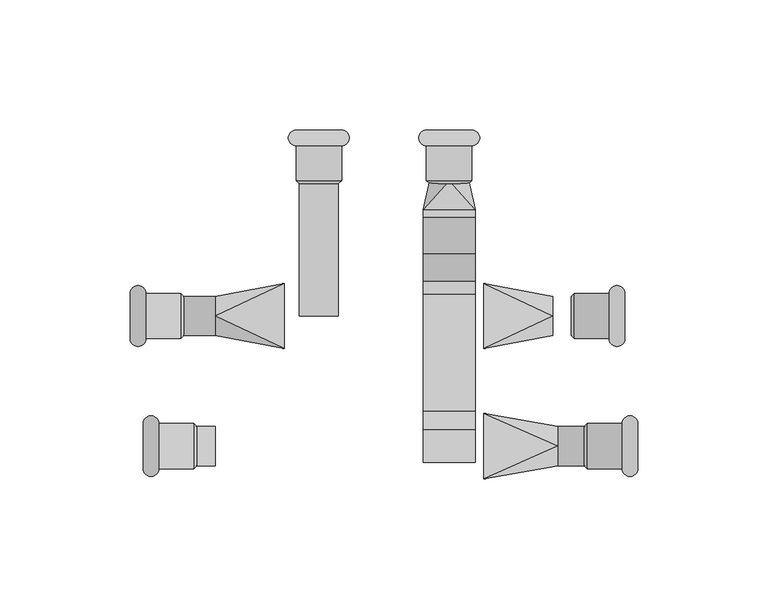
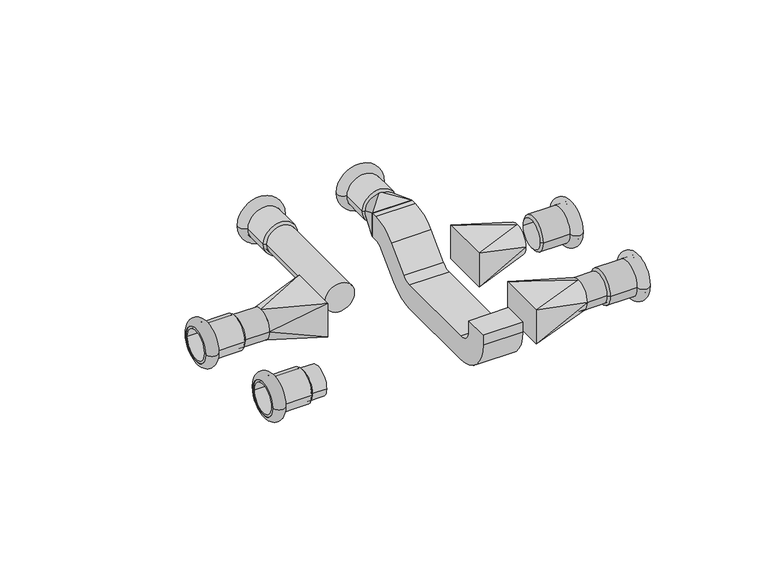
"""IFC4 building model written with IfcOpenShell, lengths in millimetres: pipe fitting geometry, NLRS_50_PIF_UN_Geberit Mapress kruising-T-stuk met isolatiebox_PRO_103301 : DN10-20 / d12-22 - OD."""

from ifc_helpers import new_model, si_unit, point, frame, frame_2d, origin, origin_2d, place, context, project, spatial, polyline, circle_curve, ellipse_curve, trimmed, segment, composite_curve, outline, extrude, source, transform, mapped, element, save
from ifc_brep_helpers import plane_surface, cylinder_surface, revolved_surface, spline_surface, advanced_brep


def pipe_fitting_3b2257b0(model_context):
    return source(origin(), model_context, "Body", "SolidModel", [
        advanced_brep(
        [(-41.3, 71.5, 0.0), (-58.7, 71.5, 0.0), (-58.7, 65.4987073, 0.0), (-41.3, 65.4987073, 0.0)],
        [
            (0, 1, circle_curve(frame((-50.0, 71.5, 0.0), z_axis=(0.0, 1.0, 0.0), x_axis=(-1.0000000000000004, 0.0, 0.0)), 8.7)),
            (1, 2),
            (2, 3, circle_curve(frame((-50.0, 65.4987073, 0.0), z_axis=(0.0, -1.0, 0.0), x_axis=(-1.0000000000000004, 0.0, 0.0)), 8.7)),
            (3, 0),
            (1, 0, circle_curve(frame((-50.0, 71.5, 0.0), z_axis=(0.0, 1.0, 0.0), x_axis=(-1.0000000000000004, 0.0, 0.0)), 8.7)),
            (3, 2, circle_curve(frame((-50.0, 65.4987073, 0.0), z_axis=(0.0, -1.0, 0.0), x_axis=(-1.0000000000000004, 0.0, 0.0)), 8.7)),
            (2, 1, circle_curve(frame((-58.7, 68.4993536, 0.0), z_axis=(0.0, 0.0, -1.0000000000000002), x_axis=(0.0, 1.0000000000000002, 0.0)), 3.0006464)),
            (0, 3, circle_curve(frame((-41.3, 68.4993536, 0.0), z_axis=(0.0, 0.0, -1.0000000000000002), x_axis=(0.0, 1.0000000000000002, 0.0)), 3.0006464)),
        ],
        [
            revolved_surface(polyline([(-58.7, 65.4987073, 0.0), (-58.7, 71.5, 0.0)]), (-50.0, 52.0, 0.0), (0.0, -1.0000000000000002, 0.0)),
            revolved_surface(trimmed(ellipse_curve(frame((-58.7, 68.4993536, 0.0), z_axis=(0.0, 0.0, 1.0000000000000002), x_axis=(0.0, 1.0000000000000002, 0.0)), 3.0006464, 3.0006464), [point((-58.7, 71.5, 0.0))], [point((-58.7, 65.4987073, 0.0))], True, "CARTESIAN"), (-50.0, 52.0, 0.0), (0.0, -1.0000000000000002, 0.0)),
        ],
        [
            (0, [[1, 2, 3, 4]]),
            (0, [[5, -4, 6, -2]]),
            (1, [[-3, 7, -1, 8]]),
            (1, [[-6, -8, -5, -7]]),
        ],
    ),
        advanced_brep(
        [(-42.5, 71.5, 0.0), (-57.5, 71.5, 0.0), (-57.5, 51.0, 0.0), (-42.5, 51.0, 0.0), (-41.3, 71.5, 0.0), (-58.7, 71.5, 0.0), (-41.3, 52.0, 0.0), (-58.7, 52.0, 0.0)],
        [
            (0, 1, circle_curve(frame((-50.0, 71.5, 0.0), z_axis=(0.0, 1.0, 0.0), x_axis=(-1.0000000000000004, 0.0, 0.0)), 7.5)),
            (1, 2),
            (2, 3, circle_curve(frame((-50.0, 51.0, 0.0), z_axis=(0.0, -1.0, 0.0), x_axis=(-1.0000000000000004, 0.0, 0.0)), 7.5)),
            (3, 0),
            (1, 0, circle_curve(frame((-50.0, 71.5, 0.0), z_axis=(0.0, 1.0, 0.0), x_axis=(-1.0000000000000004, 0.0, 0.0)), 7.5)),
            (3, 2, circle_curve(frame((-50.0, 51.0, 0.0), z_axis=(0.0, -1.0, 0.0), x_axis=(-1.0000000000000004, 0.0, 0.0)), 7.5)),
            (4, 5, circle_curve(frame((-50.0, 71.5, 0.0), z_axis=(0.0, 1.0, 0.0), x_axis=(-1.0000000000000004, 0.0, 0.0)), 8.7)),
            (5, 1),
            (0, 4),
            (5, 4, circle_curve(frame((-50.0, 71.5, 0.0), z_axis=(0.0, 1.0, 0.0), x_axis=(-1.0000000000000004, 0.0, 0.0)), 8.7)),
            (6, 7, circle_curve(frame((-50.0, 52.0, 0.0), z_axis=(0.0, 1.0, 0.0), x_axis=(-1.0000000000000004, 0.0, 0.0)), 8.7)),
            (7, 5),
            (4, 6),
            (7, 6, circle_curve(frame((-50.0, 52.0, 0.0), z_axis=(0.0, 1.0, 0.0), x_axis=(-1.0000000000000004, 0.0, 0.0)), 8.7)),
            (2, 7),
            (6, 3),
        ],
        [
            revolved_surface(polyline([(-57.5, 51.0, 0.0), (-57.5, 71.5, 0.0)]), (-50.0, 52.0, 0.0), (0.0, -1.0000000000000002, 0.0)),
            plane_surface(frame((-50.0, 71.5, 0.0), z_axis=(0.0, 1.0, 0.0), x_axis=(-1.0, 0.0, 0.0))),
            cylinder_surface(frame((-50.0, 52.0, 0.0), z_axis=(0.0, -1.0000000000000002, 0.0), x_axis=(-1.0000000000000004, 0.0, 0.0)), 8.7),
            revolved_surface(polyline([(-58.7, 52.0, 0.0), (-57.5, 51.0, 0.0)]), (-50.0, 52.0, 0.0), (0.0, -1.0000000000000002, 0.0)),
        ],
        [
            (0, [[1, 2, 3, 4]]),
            (0, [[5, -4, 6, -2]]),
            (1, [[7, 8, -1, 9]]),
            (1, [[10, -9, -5, -8]]),
            (2, [[11, 12, -7, 13]]),
            (2, [[14, -13, -10, -12]]),
            (3, [[-3, 15, -11, 16]]),
            (3, [[-6, -16, -14, -15]]),
        ],
    ),
        advanced_brep(
        [(8.7, 71.5, 0.0), (-8.7, 71.5, 0.0), (-8.7, 65.4987073, 0.0), (8.7, 65.4987073, 0.0)],
        [
            (0, 1, circle_curve(frame((0.0, 71.5, 0.0), z_axis=(0.0, 1.0, 0.0), x_axis=(-1.0000000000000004, 0.0, 0.0)), 8.7)),
            (1, 2),
            (2, 3, circle_curve(frame((0.0, 65.4987073, 0.0), z_axis=(0.0, -1.0, 0.0), x_axis=(-1.0000000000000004, 0.0, 0.0)), 8.7)),
            (3, 0),
            (1, 0, circle_curve(frame((0.0, 71.5, 0.0), z_axis=(0.0, 1.0, 0.0), x_axis=(-1.0000000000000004, 0.0, 0.0)), 8.7)),
            (3, 2, circle_curve(frame((0.0, 65.4987073, 0.0), z_axis=(0.0, -1.0, 0.0), x_axis=(-1.0000000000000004, 0.0, 0.0)), 8.7)),
            (2, 1, circle_curve(frame((-8.7, 68.4993536, 0.0), z_axis=(0.0, 0.0, -1.0000000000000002), x_axis=(0.0, 1.0000000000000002, 0.0)), 3.0006464)),
            (0, 3, circle_curve(frame((8.7, 68.4993536, 0.0), z_axis=(0.0, 0.0, -1.0000000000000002), x_axis=(0.0, 1.0000000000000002, 0.0)), 3.0006464)),
        ],
        [
            revolved_surface(polyline([(-8.700000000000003, 65.4987073, 0.0), (-8.700000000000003, 71.5, 0.0)]), (0.0, 52.0, 0.0), (0.0, -1.0000000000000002, 0.0)),
            revolved_surface(trimmed(ellipse_curve(frame((-8.7, 68.4993536, 0.0), z_axis=(0.0, 0.0, 1.0000000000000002), x_axis=(0.0, 1.0000000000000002, 0.0)), 3.0006464, 3.0006464), [point((-8.7, 71.5, 0.0))], [point((-8.7, 65.4987073, 0.0))], True, "CARTESIAN"), (0.0, 52.0, 0.0), (0.0, -1.0000000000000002, 0.0)),
        ],
        [
            (0, [[1, 2, 3, 4]]),
            (0, [[5, -4, 6, -2]]),
            (1, [[-3, 7, -1, 8]]),
            (1, [[-6, -8, -5, -7]]),
        ],
    ),
        advanced_brep(
        [(7.5, 71.5, 0.0), (-7.5, 71.5, 0.0), (-7.5, 51.0, 0.0), (7.5, 51.0, 0.0), (8.7, 71.5, 0.0), (-8.7, 71.5, 0.0), (8.7, 52.0, 0.0), (-8.7, 52.0, 0.0)],
        [
            (0, 1, circle_curve(frame((0.0, 71.5, 0.0), z_axis=(0.0, 1.0, 0.0), x_axis=(-1.0000000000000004, 0.0, 0.0)), 7.5)),
            (1, 2),
            (2, 3, circle_curve(frame((0.0, 51.0, 0.0), z_axis=(0.0, -1.0, 0.0), x_axis=(-1.0000000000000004, 0.0, 0.0)), 7.5)),
            (3, 0),
            (1, 0, circle_curve(frame((0.0, 71.5, 0.0), z_axis=(0.0, 1.0, 0.0), x_axis=(-1.0000000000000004, 0.0, 0.0)), 7.5)),
            (3, 2, circle_curve(frame((0.0, 51.0, 0.0), z_axis=(0.0, -1.0, 0.0), x_axis=(-1.0000000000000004, 0.0, 0.0)), 7.5)),
            (4, 5, circle_curve(frame((0.0, 71.5, 0.0), z_axis=(0.0, 1.0, 0.0), x_axis=(-1.0000000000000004, 0.0, 0.0)), 8.7)),
            (5, 1),
            (0, 4),
            (5, 4, circle_curve(frame((0.0, 71.5, 0.0), z_axis=(0.0, 1.0, 0.0), x_axis=(-1.0000000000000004, 0.0, 0.0)), 8.7)),
            (6, 7, circle_curve(frame((0.0, 52.0, 0.0), z_axis=(0.0, 1.0, 0.0), x_axis=(-1.0000000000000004, 0.0, 0.0)), 8.7)),
            (7, 5),
            (4, 6),
            (7, 6, circle_curve(frame((0.0, 52.0, 0.0), z_axis=(0.0, 1.0, 0.0), x_axis=(-1.0000000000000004, 0.0, 0.0)), 8.7)),
            (2, 7),
            (6, 3),
        ],
        [
            revolved_surface(polyline([(-7.5000000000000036, 51.0, 0.0), (-7.5000000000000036, 71.5, 0.0)]), (0.0, 52.0, 0.0), (0.0, -1.0000000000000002, 0.0)),
            plane_surface(frame((0.0, 71.5, 0.0), z_axis=(0.0, 1.0, 0.0), x_axis=(-1.0, 0.0, 0.0))),
            cylinder_surface(frame((0.0, 52.0, 0.0), z_axis=(0.0, -1.0000000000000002, 0.0), x_axis=(-1.0000000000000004, 0.0, 0.0)), 8.7),
            revolved_surface(polyline([(-8.7, 52.0, 0.0), (-7.5, 51.0, 0.0)]), (0.0, 52.0, 0.0), (0.0, -1.0000000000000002, 0.0)),
        ],
        [
            (0, [[1, 2, 3, 4]]),
            (0, [[5, -4, 6, -2]]),
            (1, [[7, 8, -1, 9]]),
            (1, [[10, -9, -5, -8]]),
            (2, [[11, 12, -7, 13]]),
            (2, [[14, -13, -10, -12]]),
            (3, [[-3, 15, -11, 16]]),
            (3, [[-6, -16, -14, -15]]),
        ],
    ),
        advanced_brep(
        [(67.5, -8.7, 0.0), (67.5, 8.7, 0.0), (61.4987073, 8.7, 0.0), (61.4987073, -8.7, 0.0)],
        [
            (0, 1, circle_curve(frame((67.5, 0.0, 0.0), z_axis=(1.0, 0.0, 0.0), x_axis=(0.0, 1.0, 0.0)), 8.7)),
            (1, 2),
            (2, 3, circle_curve(frame((61.4987073, 0.0, 0.0), z_axis=(-1.0, 0.0, 0.0), x_axis=(0.0, 1.0, 0.0)), 8.7)),
            (3, 0),
            (1, 0, circle_curve(frame((67.5, 0.0, 0.0), z_axis=(1.0, 0.0, 0.0), x_axis=(0.0, 1.0, 0.0)), 8.7)),
            (3, 2, circle_curve(frame((61.4987073, 0.0, 0.0), z_axis=(-1.0, 0.0, 0.0), x_axis=(0.0, 1.0, 0.0)), 8.7)),
            (2, 1, circle_curve(frame((64.4993536, 8.7, 0.0), z_axis=(0.0, 0.0, -1.0), x_axis=(1.0, 0.0, 0.0)), 3.0006464)),
            (0, 3, circle_curve(frame((64.4993536, -8.7, 0.0), z_axis=(0.0, 0.0, -1.0), x_axis=(1.0, 0.0, 0.0)), 3.0006464)),
        ],
        [
            revolved_surface(polyline([(61.4987073, 8.7, 0.0), (67.5, 8.7, 0.0)]), (48.0, 0.0, 0.0), (-1.0, 0.0, 0.0)),
            revolved_surface(trimmed(ellipse_curve(frame((64.4993536, 8.7, 0.0), z_axis=(0.0, 0.0, 1.0), x_axis=(1.0, 0.0, 0.0)), 3.0006464, 3.0006464), [point((67.5, 8.7, 0.0))], [point((61.4987073, 8.7, 0.0))], True, "CARTESIAN"), (48.0, 0.0, 0.0), (-1.0, 0.0, 0.0)),
        ],
        [
            (0, [[1, 2, 3, 4]]),
            (0, [[5, -4, 6, -2]]),
            (1, [[-3, 7, -1, 8]]),
            (1, [[-6, -8, -5, -7]]),
        ],
    ),
        advanced_brep(
        [(67.5, -7.5, 0.0), (67.5, 7.5, 0.0), (47.0, 7.5, 0.0), (47.0, -7.5, 0.0), (67.5, -8.7, 0.0), (67.5, 8.7, 0.0), (48.0, -8.7, 0.0), (48.0, 8.7, 0.0)],
        [
            (0, 1, circle_curve(frame((67.5, 0.0, 0.0), z_axis=(1.0, 0.0, 0.0), x_axis=(0.0, 1.0, 0.0)), 7.5)),
            (1, 2),
            (2, 3, circle_curve(frame((47.0, 0.0, 0.0), z_axis=(-1.0, 0.0, 0.0), x_axis=(0.0, 1.0, 0.0)), 7.5)),
            (3, 0),
            (1, 0, circle_curve(frame((67.5, 0.0, 0.0), z_axis=(1.0, 0.0, 0.0), x_axis=(0.0, 1.0, 0.0)), 7.5)),
            (3, 2, circle_curve(frame((47.0, 0.0, 0.0), z_axis=(-1.0, 0.0, 0.0), x_axis=(0.0, 1.0, 0.0)), 7.5)),
            (4, 5, circle_curve(frame((67.5, 0.0, 0.0), z_axis=(1.0, 0.0, 0.0), x_axis=(0.0, 1.0, 0.0)), 8.7)),
            (5, 1),
            (0, 4),
            (5, 4, circle_curve(frame((67.5, 0.0, 0.0), z_axis=(1.0, 0.0, 0.0), x_axis=(0.0, 1.0, 0.0)), 8.7)),
            (6, 7, circle_curve(frame((48.0, 0.0, 0.0), z_axis=(1.0, 0.0, 0.0), x_axis=(0.0, 1.0, 0.0)), 8.7)),
            (7, 5),
            (4, 6),
            (7, 6, circle_curve(frame((48.0, 0.0, 0.0), z_axis=(1.0, 0.0, 0.0), x_axis=(0.0, 1.0, 0.0)), 8.7)),
            (2, 7),
            (6, 3),
        ],
        [
            revolved_surface(polyline([(47.0, 7.5, 0.0), (67.5, 7.5, 0.0)]), (48.0, 0.0, 0.0), (-1.0, 0.0, 0.0)),
            plane_surface(frame((67.5, 0.0, 0.0), z_axis=(1.0, 0.0, 0.0), x_axis=(0.0, 1.0, 0.0))),
            cylinder_surface(frame((48.0, 0.0, 0.0), z_axis=(-1.0, 0.0, 0.0), x_axis=(0.0, 1.0, 0.0)), 8.7),
            revolved_surface(polyline([(48.0, 8.7, 0.0), (47.0, 7.5, 0.0)]), (48.0, 0.0, 0.0), (-1.0, 0.0, 0.0)),
        ],
        [
            (0, [[1, 2, 3, 4]]),
            (0, [[5, -4, 6, -2]]),
            (1, [[7, 8, -1, 9]]),
            (1, [[10, -9, -5, -8]]),
            (2, [[11, 12, -7, 13]]),
            (2, [[14, -13, -10, -12]]),
            (3, [[-3, 15, -11, 16]]),
            (3, [[-6, -16, -14, -15]]),
        ],
    ),
        advanced_brep(
        [(72.5, -58.7, 0.0), (72.5, -41.3, 0.0), (66.4987073, -41.3, 0.0), (66.4987073, -58.7, 0.0)],
        [
            (0, 1, circle_curve(frame((72.5, -50.0, 0.0), z_axis=(1.0, 0.0, 0.0), x_axis=(0.0, 1.0, 0.0)), 8.7)),
            (1, 2),
            (2, 3, circle_curve(frame((66.4987073, -50.0, 0.0), z_axis=(-1.0, 0.0, 0.0), x_axis=(0.0, 1.0, 0.0)), 8.7)),
            (3, 0),
            (1, 0, circle_curve(frame((72.5, -50.0, 0.0), z_axis=(1.0, 0.0, 0.0), x_axis=(0.0, 1.0, 0.0)), 8.7)),
            (3, 2, circle_curve(frame((66.4987073, -50.0, 0.0), z_axis=(-1.0, 0.0, 0.0), x_axis=(0.0, 1.0, 0.0)), 8.7)),
            (2, 1, circle_curve(frame((69.4993536, -41.3, 0.0), z_axis=(0.0, 0.0, -1.0), x_axis=(1.0, 0.0, 0.0)), 3.0006464)),
            (0, 3, circle_curve(frame((69.4993536, -58.7, 0.0), z_axis=(0.0, 0.0, -1.0), x_axis=(1.0, 0.0, 0.0)), 3.0006464)),
        ],
        [
            revolved_surface(polyline([(66.4987073, -41.3, 0.0), (72.5, -41.3, 0.0)]), (53.0, -50.0, 0.0), (-1.0, 0.0, 0.0)),
            revolved_surface(trimmed(ellipse_curve(frame((69.4993536, -41.3, 0.0), z_axis=(0.0, 0.0, 1.0), x_axis=(1.0, 0.0, 0.0)), 3.0006464, 3.0006464), [point((72.5, -41.3, 0.0))], [point((66.4987073, -41.3, 0.0))], True, "CARTESIAN"), (53.0, -50.0, 0.0), (-1.0, 0.0, 0.0)),
        ],
        [
            (0, [[1, 2, 3, 4]]),
            (0, [[5, -4, 6, -2]]),
            (1, [[-3, 7, -1, 8]]),
            (1, [[-6, -8, -5, -7]]),
        ],
    ),
        advanced_brep(
        [(72.5, -57.5, 0.0), (72.5, -42.5, 0.0), (52.0, -42.5, 0.0), (52.0, -57.5, 0.0), (72.5, -58.7, 0.0), (72.5, -41.3, 0.0), (53.0, -58.7, 0.0), (53.0, -41.3, 0.0)],
        [
            (0, 1, circle_curve(frame((72.5, -50.0, 0.0), z_axis=(1.0, 0.0, 0.0), x_axis=(0.0, 1.0, 0.0)), 7.5)),
            (1, 2),
            (2, 3, circle_curve(frame((52.0, -50.0, 0.0), z_axis=(-1.0, 0.0, 0.0), x_axis=(0.0, 1.0, 0.0)), 7.5)),
            (3, 0),
            (1, 0, circle_curve(frame((72.5, -50.0, 0.0), z_axis=(1.0, 0.0, 0.0), x_axis=(0.0, 1.0, 0.0)), 7.5)),
            (3, 2, circle_curve(frame((52.0, -50.0, 0.0), z_axis=(-1.0, 0.0, 0.0), x_axis=(0.0, 1.0, 0.0)), 7.5)),
            (4, 5, circle_curve(frame((72.5, -50.0, 0.0), z_axis=(1.0, 0.0, 0.0), x_axis=(0.0, 1.0, 0.0)), 8.7)),
            (5, 1),
            (0, 4),
            (5, 4, circle_curve(frame((72.5, -50.0, 0.0), z_axis=(1.0, 0.0, 0.0), x_axis=(0.0, 1.0, 0.0)), 8.7)),
            (6, 7, circle_curve(frame((53.0, -50.0, 0.0), z_axis=(1.0, 0.0, 0.0), x_axis=(0.0, 1.0, 0.0)), 8.7)),
            (7, 5),
            (4, 6),
            (7, 6, circle_curve(frame((53.0, -50.0, 0.0), z_axis=(1.0, 0.0, 0.0), x_axis=(0.0, 1.0, 0.0)), 8.7)),
            (2, 7),
            (6, 3),
        ],
        [
            revolved_surface(polyline([(52.0, -42.5, 0.0), (72.5, -42.5, 0.0)]), (53.0, -50.0, 0.0), (-1.0, 0.0, 0.0)),
            plane_surface(frame((72.5, -50.0, 0.0), z_axis=(1.0, 0.0, 0.0), x_axis=(0.0, 1.0, 0.0))),
            cylinder_surface(frame((53.0, -50.0, 0.0), z_axis=(-1.0, 0.0, 0.0), x_axis=(0.0, 1.0, 0.0)), 8.7),
            revolved_surface(polyline([(53.0, -41.3, 0.0), (52.0, -42.5, 0.0)]), (53.0, -50.0, 0.0), (-1.0, 0.0, 0.0)),
        ],
        [
            (0, [[1, 2, 3, 4]]),
            (0, [[5, -4, 6, -2]]),
            (1, [[7, 8, -1, 9]]),
            (1, [[10, -9, -5, -8]]),
            (2, [[11, 12, -7, 13]]),
            (2, [[14, -13, -10, -12]]),
            (3, [[-3, 15, -11, 16]]),
            (3, [[-6, -16, -14, -15]]),
        ],
    ),
        advanced_brep(
        [(-122.5, 8.7, 0.0), (-122.5, -8.7, 0.0), (-116.4987073, -8.7, 0.0), (-116.4987073, 8.7, 0.0)],
        [
            (0, 1, circle_curve(frame((-122.5, 0.0, 0.0), z_axis=(-1.0, 0.0, 0.0), x_axis=(0.0, -1.0, 0.0)), 8.7)),
            (1, 2),
            (2, 3, circle_curve(frame((-116.4987073, 0.0, 0.0), z_axis=(1.0, 0.0, 0.0), x_axis=(0.0, -1.0, 0.0)), 8.7)),
            (3, 0),
            (1, 0, circle_curve(frame((-122.5, 0.0, 0.0), z_axis=(-1.0, 0.0, 0.0), x_axis=(0.0, -1.0, 0.0)), 8.7)),
            (3, 2, circle_curve(frame((-116.4987073, 0.0, 0.0), z_axis=(1.0, 0.0, 0.0), x_axis=(0.0, -1.0, 0.0)), 8.7)),
            (2, 1, circle_curve(frame((-119.4993536, -8.7, 0.0), z_axis=(0.0, 0.0, -1.0), x_axis=(-1.0, 0.0, 0.0)), 3.0006464)),
            (0, 3, circle_curve(frame((-119.4993536, 8.7, 0.0), z_axis=(0.0, 0.0, -1.0), x_axis=(-1.0, 0.0, 0.0)), 3.0006464)),
        ],
        [
            revolved_surface(polyline([(-116.4987073, -8.7, 0.0), (-122.5, -8.7, 0.0)]), (-103.0, 0.0, 0.0), (1.0, 0.0, 0.0)),
            revolved_surface(trimmed(ellipse_curve(frame((-119.4993536, -8.7, 0.0), z_axis=(0.0, 0.0, 1.0), x_axis=(-1.0, 0.0, 0.0)), 3.0006464, 3.0006464), [point((-122.5, -8.7, 0.0))], [point((-116.4987073, -8.7, 0.0))], True, "CARTESIAN"), (-103.0, 0.0, 0.0), (1.0, 0.0, 0.0)),
        ],
        [
            (0, [[1, 2, 3, 4]]),
            (0, [[5, -4, 6, -2]]),
            (1, [[-3, 7, -1, 8]]),
            (1, [[-6, -8, -5, -7]]),
        ],
    ),
        advanced_brep(
        [(-122.5, 7.5, 0.0), (-122.5, -7.5, 0.0), (-102.0, -7.5, 0.0), (-102.0, 7.5, 0.0), (-122.5, 8.7, 0.0), (-122.5, -8.7, 0.0), (-103.0, 8.7, 0.0), (-103.0, -8.7, 0.0)],
        [
            (0, 1, circle_curve(frame((-122.5, 0.0, 0.0), z_axis=(-1.0, 0.0, 0.0), x_axis=(0.0, -1.0, 0.0)), 7.5)),
            (1, 2),
            (2, 3, circle_curve(frame((-102.0, 0.0, 0.0), z_axis=(1.0, 0.0, 0.0), x_axis=(0.0, -1.0, 0.0)), 7.5)),
            (3, 0),
            (1, 0, circle_curve(frame((-122.5, 0.0, 0.0), z_axis=(-1.0, 0.0, 0.0), x_axis=(0.0, -1.0, 0.0)), 7.5)),
            (3, 2, circle_curve(frame((-102.0, 0.0, 0.0), z_axis=(1.0, 0.0, 0.0), x_axis=(0.0, -1.0, 0.0)), 7.5)),
            (4, 5, circle_curve(frame((-122.5, 0.0, 0.0), z_axis=(-1.0, 0.0, 0.0), x_axis=(0.0, -1.0, 0.0)), 8.7)),
            (5, 1),
            (0, 4),
            (5, 4, circle_curve(frame((-122.5, 0.0, 0.0), z_axis=(-1.0, 0.0, 0.0), x_axis=(0.0, -1.0, 0.0)), 8.7)),
            (6, 7, circle_curve(frame((-103.0, 0.0, 0.0), z_axis=(-1.0, 0.0, 0.0), x_axis=(0.0, -1.0, 0.0)), 8.7)),
            (7, 5),
            (4, 6),
            (7, 6, circle_curve(frame((-103.0, 0.0, 0.0), z_axis=(-1.0, 0.0, 0.0), x_axis=(0.0, -1.0, 0.0)), 8.7)),
            (2, 7),
            (6, 3),
        ],
        [
            revolved_surface(polyline([(-102.0, -7.5, 0.0), (-122.5, -7.5, 0.0)]), (-103.0, 0.0, 0.0), (1.0, 0.0, 0.0)),
            plane_surface(frame((-122.5, 0.0, 0.0), z_axis=(-1.0, 0.0, 0.0), x_axis=(0.0, -1.0, 0.0))),
            cylinder_surface(frame((-103.0, 0.0, 0.0), z_axis=(1.0, 0.0, 0.0), x_axis=(0.0, -1.0, 0.0)), 8.7),
            revolved_surface(polyline([(-103.0, -8.7, 0.0), (-102.0, -7.5, 0.0)]), (-103.0, 0.0, 0.0), (1.0, 0.0, 0.0)),
        ],
        [
            (0, [[1, 2, 3, 4]]),
            (0, [[5, -4, 6, -2]]),
            (1, [[7, 8, -1, 9]]),
            (1, [[10, -9, -5, -8]]),
            (2, [[11, 12, -7, 13]]),
            (2, [[14, -13, -10, -12]]),
            (3, [[-3, 15, -11, 16]]),
            (3, [[-6, -16, -14, -15]]),
        ],
    ),
        advanced_brep(
        [(-117.5, -41.3, 0.0), (-117.5, -58.7, 0.0), (-111.4987073, -58.7, 0.0), (-111.4987073, -41.3, 0.0)],
        [
            (0, 1, circle_curve(frame((-117.5, -50.0, 0.0), z_axis=(-1.0, 0.0, 0.0), x_axis=(0.0, -1.0, 0.0)), 8.7)),
            (1, 2),
            (2, 3, circle_curve(frame((-111.4987073, -50.0, 0.0), z_axis=(1.0, 0.0, 0.0), x_axis=(0.0, -1.0, 0.0)), 8.7)),
            (3, 0),
            (1, 0, circle_curve(frame((-117.5, -50.0, 0.0), z_axis=(-1.0, 0.0, 0.0), x_axis=(0.0, -1.0, 0.0)), 8.7)),
            (3, 2, circle_curve(frame((-111.4987073, -50.0, 0.0), z_axis=(1.0, 0.0, 0.0), x_axis=(0.0, -1.0, 0.0)), 8.7)),
            (2, 1, circle_curve(frame((-114.4993536, -58.7, 0.0), z_axis=(0.0, 0.0, -1.0), x_axis=(-1.0, 0.0, 0.0)), 3.0006464)),
            (0, 3, circle_curve(frame((-114.4993536, -41.3, 0.0), z_axis=(0.0, 0.0, -1.0), x_axis=(-1.0, 0.0, 0.0)), 3.0006464)),
        ],
        [
            revolved_surface(polyline([(-111.4987073, -58.7, 0.0), (-117.5, -58.7, 0.0)]), (-98.0, -50.0, 0.0), (1.0, 0.0, 0.0)),
            revolved_surface(trimmed(ellipse_curve(frame((-114.4993536, -58.7, 0.0), z_axis=(0.0, 0.0, 1.0), x_axis=(-1.0, 0.0, 0.0)), 3.0006464, 3.0006464), [point((-117.5, -58.7, 0.0))], [point((-111.4987073, -58.7, 0.0))], True, "CARTESIAN"), (-98.0, -50.0, 0.0), (1.0, 0.0, 0.0)),
        ],
        [
            (0, [[1, 2, 3, 4]]),
            (0, [[5, -4, 6, -2]]),
            (1, [[-3, 7, -1, 8]]),
            (1, [[-6, -8, -5, -7]]),
        ],
    ),
        advanced_brep(
        [(-117.5, -42.5, 0.0), (-117.5, -57.5, 0.0), (-97.0, -57.5, 0.0), (-97.0, -42.5, 0.0), (-117.5, -41.3, 0.0), (-117.5, -58.7, 0.0), (-98.0, -41.3, 0.0), (-98.0, -58.7, 0.0)],
        [
            (0, 1, circle_curve(frame((-117.5, -50.0, 0.0), z_axis=(-1.0, 0.0, 0.0), x_axis=(0.0, -1.0, 0.0)), 7.5)),
            (1, 2),
            (2, 3, circle_curve(frame((-97.0, -50.0, 0.0), z_axis=(1.0, 0.0, 0.0), x_axis=(0.0, -1.0, 0.0)), 7.5)),
            (3, 0),
            (1, 0, circle_curve(frame((-117.5, -50.0, 0.0), z_axis=(-1.0, 0.0, 0.0), x_axis=(0.0, -1.0, 0.0)), 7.5)),
            (3, 2, circle_curve(frame((-97.0, -50.0, 0.0), z_axis=(1.0, 0.0, 0.0), x_axis=(0.0, -1.0, 0.0)), 7.5)),
            (4, 5, circle_curve(frame((-117.5, -50.0, 0.0), z_axis=(-1.0, 0.0, 0.0), x_axis=(0.0, -1.0, 0.0)), 8.7)),
            (5, 1),
            (0, 4),
            (5, 4, circle_curve(frame((-117.5, -50.0, 0.0), z_axis=(-1.0, 0.0, 0.0), x_axis=(0.0, -1.0, 0.0)), 8.7)),
            (6, 7, circle_curve(frame((-98.0, -50.0, 0.0), z_axis=(-1.0, 0.0, 0.0), x_axis=(0.0, -1.0, 0.0)), 8.7)),
            (7, 5),
            (4, 6),
            (7, 6, circle_curve(frame((-98.0, -50.0, 0.0), z_axis=(-1.0, 0.0, 0.0), x_axis=(0.0, -1.0, 0.0)), 8.7)),
            (2, 7),
            (6, 3),
        ],
        [
            revolved_surface(polyline([(-97.0, -57.5, 0.0), (-117.5, -57.5, 0.0)]), (-98.0, -50.0, 0.0), (1.0, 0.0, 0.0)),
            plane_surface(frame((-117.5, -50.0, 0.0), z_axis=(-1.0, 0.0, 0.0), x_axis=(0.0, -1.0, 0.0))),
            cylinder_surface(frame((-98.0, -50.0, 0.0), z_axis=(1.0, 0.0, 0.0), x_axis=(0.0, -1.0, 0.0)), 8.7),
            revolved_surface(polyline([(-98.0, -58.7, 0.0), (-97.0, -57.5, 0.0)]), (-98.0, -50.0, 0.0), (1.0, 0.0, 0.0)),
        ],
        [
            (0, [[1, 2, 3, 4]]),
            (0, [[5, -4, 6, -2]]),
            (1, [[7, 8, -1, 9]]),
            (1, [[10, -9, -5, -8]]),
            (2, [[11, 12, -7, 13]]),
            (2, [[14, -13, -10, -12]]),
            (3, [[-3, 15, -11, 16]]),
            (3, [[-6, -16, -14, -15]]),
        ],
    ),
        advanced_brep(
        [(0.0774614, 52.0, 7.4996), (7.4991117, 52.0, -0.1154307), (0.0774614, 52.0, -7.4996), (-7.4999119, 52.0, 0.0363502), (10.0, 40.9059542, 6.25), (-10.0, 40.9059542, 6.25), (-10.0, 40.9059542, -6.25), (10.0, 40.9059542, -6.25)],
        [
            (0, 1, circle_curve(frame((0.0, 52.0, 0.0), z_axis=(0.0, 1.0, 0.0), x_axis=(1.0, 0.0, 0.0)), 7.5)),
            (1, 2, circle_curve(frame((0.0, 52.0, 0.0), z_axis=(0.0, 1.0, 0.0), x_axis=(1.0, 0.0, 0.0)), 7.5)),
            (2, 3, circle_curve(frame((0.0, 52.0, 0.0), z_axis=(0.0, 1.0, 0.0), x_axis=(1.0, 0.0, 0.0)), 7.5)),
            (3, 0, circle_curve(frame((0.0, 52.0, 0.0), z_axis=(0.0, 1.0, 0.0), x_axis=(1.0, 0.0, 0.0)), 7.5)),
            (4, 5),
            (5, 6),
            (6, 7),
            (7, 4),
            (5, 3),
            (3, 6),
            (7, 1),
            (1, 4),
            (0, 4),
            (7, 2),
            (6, 2),
            (5, 0),
        ],
        [
            plane_surface(frame((0.0385306, 52.0, -0.0197701), z_axis=(0.0, 1.0, 0.0), x_axis=(-0.0048466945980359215, 0.0, -0.9999882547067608))),
            plane_surface(frame((0.0, 40.9059542, 0.0), z_axis=(0.0, -1.0, 0.0), x_axis=(-0.0048466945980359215, 0.0, -0.9999882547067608))),
            plane_surface(frame((-10.0, 40.9059542, 0.0), z_axis=(-0.975535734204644, 0.21984092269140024, 0.0), x_axis=(0.0, 0.0, 1.0))),
            plane_surface(frame((10.0, 40.9059542, 0.0), z_axis=(0.9755206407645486, 0.219907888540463, 0.0), x_axis=(0.0, 0.0, -1.0))),
            spline_surface(2, 1, [[(10.0, 40.9059542, 6.25), (0.0774614, 52.0, 7.4996)], [(10.0, 40.9059542, 6.25), (3.195024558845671, 52.0, 7.467399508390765)], [(10.0, 40.9059542, 6.25), (5.371060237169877, 52.0, 5.234664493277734)], [(10.0, 40.9059542, 6.25), (7.5470959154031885, 52.0, 3.0019294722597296)], [(10.0, 40.9059542, 6.25), (7.4991117, 52.0, -0.1154307)]], [3, 2, 3], [2, 2], [0.0, 1.0, 2.0], [0.0, 1.0], weights=[[1.0, 1.0], [0.9233944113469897, 0.9233944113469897], [1.0, 1.0], [0.9233944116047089, 0.9233944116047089], [1.0, 1.0]]),
            spline_surface(2, 1, [[(10.0, 40.9059542, -6.25), (7.4991117, 52.0, -0.1154307)], [(10.0, 40.9059542, -6.25), (7.386612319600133, 52.0, -7.424105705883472)], [(10.0, 40.9059542, -6.25), (0.0774614, 52.0, -7.4996)]], [3, 3], [2, 2], [0.0, 1.0], [0.0, 1.0], weights=[[1.0, 1.0], [0.7161413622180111, 0.7161413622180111], [1.0, 1.0]]),
            plane_surface(frame((0.0, 40.9059542, -6.25), z_axis=(0.0, -0.11192920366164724, -0.9937161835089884), x_axis=(-1.0, 0.0, 0.0))),
            spline_surface(2, 1, [[(-10.0, 40.9059542, -6.25), (0.0774614, 52.0, -7.4996)], [(-10.0, 40.9059542, -6.25), (-3.0623605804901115, 52.0, -7.5320303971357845)], [(-10.0, 40.9059542, -6.25), (-5.288745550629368, 52.0, -5.317816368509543)], [(-10.0, 40.9059542, -6.25), (-7.515130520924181, 52.0, -3.103602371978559)], [(-10.0, 40.9059542, -6.25), (-7.4999119, 52.0, 0.0363502)]], [3, 2, 3], [2, 2], [0.0, 1.0, 2.0], [0.0, 1.0], weights=[[1.0, 1.0], [0.9224210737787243, 0.9224210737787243], [1.0, 1.0], [0.9224210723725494, 0.9224210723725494], [1.0, 1.0]]),
            spline_surface(2, 1, [[(-10.0, 40.9059542, 6.25), (-7.4999119, 52.0, 0.0363502)], [(-10.0, 40.9059542, 6.25), (-7.484796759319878, 52.0, 3.1549636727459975)], [(-10.0, 40.9059542, 6.25), (-5.262909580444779, 52.0, 5.343386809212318)], [(-10.0, 40.9059542, 6.25), (-3.0410223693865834, 52.0, 7.531809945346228)], [(-10.0, 40.9059542, 6.25), (0.0774614, 52.0, 7.4996)]], [3, 2, 3], [2, 2], [0.0, 1.0, 2.0], [0.0, 1.0], weights=[[1.0, 1.0], [0.923354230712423, 0.923354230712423], [1.0, 1.0], [0.9233542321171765, 0.9233542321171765], [1.0, 1.0]]),
            plane_surface(frame((0.0, 40.9059542, 6.25), z_axis=(0.0, -0.11192920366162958, 0.9937161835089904), x_axis=(1.0, 0.0, 0.0))),
        ],
        [
            (0, [[1, 2, 3, 4]]),
            (1, [[5, 6, 7, 8]]),
            (2, [[-6, 9, 10]]),
            (3, [[-8, 11, 12]]),
            (4, [[-1, 13, -12]]),
            (5, [[-2, -11, 14]]),
            (6, [[-7, 15, -14]]),
            (7, [[-3, -15, -10]]),
            (8, [[-4, -9, 16]]),
            (9, [[-5, -13, -16]]),
        ],
    ),
        advanced_brep(
        [(41.75, -49.9572258, 7.499878), (41.75, -57.4999938, 0.0096644), (41.75, -50.030288, -7.4999388), (41.75, -42.5000003, 0.0020186), (13.25, -62.5, 9.0), (13.25, -37.5, 9.0), (13.25, -37.5, -9.0), (13.25, -62.5, -9.0)],
        [
            (0, 1, circle_curve(frame((41.75, -50.0, 0.0), z_axis=(1.0, 0.0, 0.0), x_axis=(0.0, 1.0, 0.0)), 7.5)),
            (1, 2, circle_curve(frame((41.75, -50.0, 0.0), z_axis=(1.0, 0.0, 0.0), x_axis=(0.0, 1.0, 0.0)), 7.5)),
            (2, 3, circle_curve(frame((41.75, -50.0, 0.0), z_axis=(1.0, 0.0, 0.0), x_axis=(0.0, 1.0, 0.0)), 7.5)),
            (3, 0, circle_curve(frame((41.75, -50.0, 0.0), z_axis=(1.0, 0.0, 0.0), x_axis=(0.0, 1.0, 0.0)), 7.5)),
            (4, 5),
            (5, 6),
            (6, 7),
            (7, 4),
            (7, 1),
            (1, 4),
            (5, 3),
            (3, 6),
            (0, 4),
            (7, 2),
            (6, 2),
            (5, 0),
        ],
        [
            plane_surface(frame((41.75, -49.996877, 0.0029055), z_axis=(1.0000000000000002, 0.0, 0.0), x_axis=(0.0, -0.0012885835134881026, -0.9999991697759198))),
            plane_surface(frame((13.25, -50.0, 0.0), z_axis=(-1.0000000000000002, 0.0, 0.0), x_axis=(0.0, -0.0012885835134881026, -0.9999991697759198))),
            plane_surface(frame((13.25, -62.5, 0.0), z_axis=(0.1727996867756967, -0.9849569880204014, 0.0), x_axis=(0.0, 0.0, -1.0))),
            plane_surface(frame((13.25, -37.5, 0.0), z_axis=(0.17279948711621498, 0.9849570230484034, 0.0), x_axis=(0.0, 0.0, 1.0))),
            spline_surface(2, 1, [[(13.25, -62.5, 9.0), (41.75, -49.9572258, 7.499878)], [(13.25, -62.5, 9.0), (41.75, -53.073478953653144, 7.517650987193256)], [(13.25, -62.5, 9.0), (41.75, -55.28472852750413, 5.321808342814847)], [(13.25, -62.5, 9.0), (41.75, -57.49597810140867, 3.1259656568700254)], [(13.25, -62.5, 9.0), (41.75, -57.4999938, 0.0096644)]], [3, 2, 3], [2, 2], [0.0, 1.0, 2.0], [0.0, 1.0], weights=[[1.0, 1.0], [0.9234566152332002, 0.9234566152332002], [1.0, 1.0], [0.9234566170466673, 0.9234566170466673], [1.0, 1.0]]),
            spline_surface(2, 1, [[(13.25, -62.5, -9.0), (41.75, -57.4999938, 0.0096644)], [(13.25, -62.5, -9.0), (41.75, -57.50963172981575, -7.469734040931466)], [(13.25, -62.5, -9.0), (41.75, -50.030288, -7.4999388)]], [3, 3], [2, 2], [0.0, 1.0], [0.0, 1.0], weights=[[1.0, 1.0], [0.7080783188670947, 0.7080783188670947], [1.0, 1.0]]),
            plane_surface(frame((13.25, -50.0, -9.0), z_axis=(0.05256097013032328, 0.0, -0.9986177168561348), x_axis=(0.0, 1.0, 0.0))),
            spline_surface(2, 1, [[(13.25, -37.5, -9.0), (41.75, -50.030288, -7.4999388)], [(13.25, -37.5, -9.0), (41.75, -46.914245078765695, -7.512522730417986)], [(13.25, -37.5, -9.0), (41.75, -44.70670335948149, -5.313286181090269)], [(13.25, -37.5, -9.0), (41.75, -42.499161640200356, -3.1140496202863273)], [(13.25, -37.5, -9.0), (41.75, -42.5000003, 0.0020186)]], [3, 2, 3], [2, 2], [0.0, 1.0, 2.0], [0.0, 1.0], weights=[[1.0, 1.0], [0.923466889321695, 0.923466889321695], [1.0, 1.0], [0.9234668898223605, 0.9234668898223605], [1.0, 1.0]]),
            spline_surface(2, 1, [[(13.25, -37.5, 9.0), (41.75, -42.5000003, 0.0020186)], [(13.25, -37.5, 9.0), (41.75, -42.50200688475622, 7.457358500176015)], [(13.25, -37.5, 9.0), (41.75, -49.9572258, 7.499878)]], [3, 3], [2, 2], [0.0, 1.0], [0.0, 1.0], weights=[[1.0, 1.0], [0.7092151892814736, 0.7092151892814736], [1.0, 1.0]]),
            plane_surface(frame((13.25, -50.0, 9.0), z_axis=(0.05256309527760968, 0.0, 0.9986176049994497), x_axis=(0.0, -1.0, 0.0))),
        ],
        [
            (0, [[1, 2, 3, 4]]),
            (1, [[5, 6, 7, 8]]),
            (2, [[-8, 9, 10]]),
            (3, [[-6, 11, 12]]),
            (4, [[-1, 13, -10]]),
            (5, [[-2, -9, 14]]),
            (6, [[-7, 15, -14]]),
            (7, [[-3, -15, -12]]),
            (8, [[-4, -11, 16]]),
            (9, [[-5, -13, -16]]),
        ],
    ),
        advanced_brep(
        [(39.75, -0.0348869, 7.4999189), (39.75, -7.4999938, 0.0096644), (39.75, 0.0126554, -7.4999893), (39.75, 7.4999116, -0.0364094), (13.25, -12.5, 9.0), (13.25, 12.5, 9.0), (13.25, 12.5, -9.0), (13.25, -12.5, -9.0)],
        [
            (0, 1, circle_curve(frame((39.75, 0.0, 0.0), z_axis=(1.0, 0.0, 0.0), x_axis=(0.0, 1.0, 0.0)), 7.5)),
            (1, 2, circle_curve(frame((39.75, 0.0, 0.0), z_axis=(1.0, 0.0, 0.0), x_axis=(0.0, 1.0, 0.0)), 7.5)),
            (2, 3, circle_curve(frame((39.75, 0.0, 0.0), z_axis=(1.0, 0.0, 0.0), x_axis=(0.0, 1.0, 0.0)), 7.5)),
            (3, 0, circle_curve(frame((39.75, 0.0, 0.0), z_axis=(1.0, 0.0, 0.0), x_axis=(0.0, 1.0, 0.0)), 7.5)),
            (4, 5),
            (5, 6),
            (6, 7),
            (7, 4),
            (7, 1),
            (1, 4),
            (5, 3),
            (3, 6),
            (0, 4),
            (7, 2),
            (6, 2),
            (5, 0),
        ],
        [
            plane_surface(frame((39.75, -0.0055784, -0.0067039), z_axis=(1.0000000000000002, 0.0, 0.0), x_axis=(0.0, -0.0012885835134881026, -0.9999991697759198))),
            plane_surface(frame((13.25, 0.0, 0.0), z_axis=(-1.0000000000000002, 0.0, 0.0), x_axis=(0.0, -0.0012885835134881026, -0.9999991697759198))),
            plane_surface(frame((13.25, -12.5, 0.0), z_axis=(0.18540808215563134, -0.982661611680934, 0.0), x_axis=(0.0, 0.0, -1.0))),
            plane_surface(frame((13.25, 12.5, 0.0), z_axis=(0.18541102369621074, 0.9826610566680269, 0.0), x_axis=(0.0, 0.0, 1.0))),
            spline_surface(2, 1, [[(13.25, -12.5, 9.0), (39.75, -0.0348869, 7.4999189)], [(13.25, -12.5, 9.0), (39.75, -7.4903866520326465, 7.465238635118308)], [(13.25, -12.5, 9.0), (39.75, -7.4999938, 0.0096644)]], [3, 3], [2, 2], [0.0, 1.0], [0.0, 1.0], weights=[[1.0, 1.0], [0.7092038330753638, 0.7092038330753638], [1.0, 1.0]]),
            spline_surface(2, 1, [[(13.25, -12.5, -9.0), (39.75, -7.4999938, 0.0096644)], [(13.25, -12.5, -9.0), (39.75, -7.50400535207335, -3.10347409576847)], [(13.25, -12.5, -9.0), (39.75, -5.302243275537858, -5.304358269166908)], [(13.25, -12.5, -9.0), (39.75, -3.10048123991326, -7.505242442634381)], [(13.25, -12.5, -9.0), (39.75, 0.0126554, -7.4999893)]], [3, 2, 3], [2, 2], [0.0, 1.0, 2.0], [0.0, 1.0], weights=[[1.0, 1.0], [0.923594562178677, 0.923594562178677], [1.0, 1.0], [0.9235945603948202, 0.9235945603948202], [1.0, 1.0]]),
            plane_surface(frame((13.25, 0.0, -9.0), z_axis=(0.05651371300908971, 0.0, -0.9984018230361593), x_axis=(0.0, 1.0, 0.0))),
            spline_surface(2, 1, [[(13.25, 12.5, -9.0), (39.75, 0.0126554, -7.4999893)], [(13.25, 12.5, -9.0), (39.75, 7.46373961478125, -7.487416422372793)], [(13.25, 12.5, -9.0), (39.75, 7.4999116, -0.0364094)]], [3, 3], [2, 2], [0.0, 1.0], [0.0, 1.0], weights=[[1.0, 1.0], [0.7094159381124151, 0.7094159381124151], [1.0, 1.0]]),
            spline_surface(2, 1, [[(13.25, 12.5, 9.0), (39.75, 7.4999116, -0.0364094)], [(13.25, 12.5, 9.0), (39.75, 7.5150943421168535, 3.0910583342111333)], [(13.25, 12.5, 9.0), (39.75, 5.303839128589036, 5.302762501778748)], [(13.25, 12.5, 9.0), (39.75, 3.092583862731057, 7.514466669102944)], [(13.25, 12.5, 9.0), (39.75, -0.0348869, 7.4999189)]], [3, 2, 3], [2, 2], [0.0, 1.0, 2.0], [0.0, 1.0], weights=[[1.0, 1.0], [0.9229674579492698, 0.9229674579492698], [1.0, 1.0], [0.9229674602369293, 0.9229674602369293], [1.0, 1.0]]),
            plane_surface(frame((13.25, 0.0, 9.0), z_axis=(0.05651635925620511, 0.0, 0.9984016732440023), x_axis=(0.0, -1.0, 0.0))),
        ],
        [
            (0, [[1, 2, 3, 4]]),
            (1, [[5, 6, 7, 8]]),
            (2, [[-8, 9, 10]]),
            (3, [[-6, 11, 12]]),
            (4, [[-1, 13, -10]]),
            (5, [[-2, -9, 14]]),
            (6, [[-7, 15, -14]]),
            (7, [[-3, -15, -12]]),
            (8, [[-4, -11, 16]]),
            (9, [[-5, -13, -16]]),
        ],
    ),
        extrude(outline(composite_curve([segment(trimmed(circle_curve(frame_2d((-50.0, 0.0)), 7.5), [point((-42.5, 0.0))], [point((-57.5, 0.0))], False, "CARTESIAN"), True, "CONTINUOUS"), segment(trimmed(circle_curve(frame_2d((-50.0, 0.0)), 7.5), [point((-57.5, 0.0))], [point((-42.5, 0.0))], False, "CARTESIAN"), True, "CONTINUOUS")], self_intersect=False)), frame((-98.0, 0.0, 0.0), z_axis=(1.0, 0.0, 0.0), x_axis=(0.0, 1.0, 0.0)), (0.0, 0.0, 1.0), 8.25),
        extrude(outline(composite_curve([segment(trimmed(circle_curve(origin_2d(), 7.5), [point((-7.5, 0.0))], [point((7.5, 0.0))], False, "CARTESIAN"), True, "CONTINUOUS"), segment(trimmed(circle_curve(origin_2d(), 7.5), [point((7.5, 0.0))], [point((-7.5, 0.0))], False, "CARTESIAN"), True, "CONTINUOUS")], self_intersect=False)), frame((-103.0, 0.0, 0.0), z_axis=(1.0, 0.0, 0.0), x_axis=(0.0, 1.0, 0.0)), (0.0, 0.0, 1.0), 13.25),
        extrude(outline(composite_curve([segment(trimmed(circle_curve(frame_2d((0.0, -50.0)), 7.5), [point((0.0, -42.5))], [point((0.0, -57.5))], False, "CARTESIAN"), True, "CONTINUOUS"), segment(trimmed(circle_curve(frame_2d((0.0, -50.0)), 7.5), [point((0.0, -57.5))], [point((0.0, -42.5))], False, "CARTESIAN"), True, "CONTINUOUS")], self_intersect=False)), frame((0.0, 0.0, 0.0), z_axis=(0.0, 1.0, 0.0), x_axis=(0.0, 0.0, 1.0)), (0.0, 0.0, 1.0), 52.0),
        advanced_brep(
        [(-89.75, -7.499999, 0.0037858), (-89.75, -0.058773, 7.4997697), (-89.75, 7.4999765, -0.0187767), (-89.75, -0.0663444, -7.4997066), (-63.25, -12.5, 9.0), (-63.25, -12.5, -9.0), (-63.25, 12.5, -9.0), (-63.25, 12.5, 9.0)],
        [
            (0, 1, circle_curve(frame((-89.75, 0.0, 0.0), z_axis=(-1.0, 0.0, 0.0), x_axis=(0.0, 1.0, 0.0)), 7.5)),
            (1, 2, circle_curve(frame((-89.75, 0.0, 0.0), z_axis=(-1.0, 0.0, 0.0), x_axis=(0.0, 1.0, 0.0)), 7.5)),
            (2, 3, circle_curve(frame((-89.75, 0.0, 0.0), z_axis=(-1.0, 0.0, 0.0), x_axis=(0.0, 1.0, 0.0)), 7.5)),
            (3, 0, circle_curve(frame((-89.75, 0.0, 0.0), z_axis=(-1.0, 0.0, 0.0), x_axis=(0.0, 1.0, 0.0)), 7.5)),
            (4, 5),
            (5, 6),
            (6, 7),
            (7, 4),
            (4, 0),
            (0, 5),
            (6, 2),
            (2, 7),
            (4, 1),
            (7, 1),
            (6, 3),
            (5, 3),
        ],
        [
            plane_surface(frame((-89.75, -0.031285, -0.0037319), z_axis=(-1.0, 0.0, 0.0), x_axis=(0.0, 0.0005047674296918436, 0.9999998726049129))),
            plane_surface(frame((-63.25, 0.0, 0.0), z_axis=(1.0, 0.0, 0.0), x_axis=(0.0, 0.0005047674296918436, 0.9999998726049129))),
            plane_surface(frame((-63.25, -12.5, 0.0), z_axis=(-0.18540789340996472, -0.9826616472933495, 0.0), x_axis=(0.0, 0.0, 1.0))),
            plane_surface(frame((-63.25, 12.5, 0.0), z_axis=(-0.18540870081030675, 0.9826614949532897, 0.0), x_axis=(0.0, 0.0, -1.0))),
            spline_surface(2, 1, [[(-63.25, -12.5, 9.0), (-89.75, -7.499999, 0.0037858)], [(-63.25, -12.5, 9.0), (-89.75, -7.4962446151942, 7.4414848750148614)], [(-63.25, -12.5, 9.0), (-89.75, -0.058773, 7.4997697)]], [3, 3], [2, 2], [0.0, 1.0], [0.0, 1.0], weights=[[1.0, 1.0], [0.7100497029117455, 0.7100497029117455], [1.0, 1.0]]),
            plane_surface(frame((-63.25, 0.0, 9.0), z_axis=(-0.056521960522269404, 0.0, 0.9984013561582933), x_axis=(0.0, 1.0, 0.0))),
            spline_surface(2, 1, [[(-63.25, 12.5, 9.0), (-89.75, -0.058773, 7.4997697)], [(-63.25, 12.5, 9.0), (-89.75, 3.0704709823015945, 7.5242924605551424)], [(-63.25, 12.5, 9.0), (-89.75, 5.289140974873, 5.317423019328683)], [(-63.25, 12.5, 9.0), (-89.75, 7.507810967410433, 3.110553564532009)], [(-63.25, 12.5, 9.0), (-89.75, 7.4999765, -0.0187767)]], [3, 2, 3], [2, 2], [0.0, 1.0, 2.0], [0.0, 1.0], weights=[[1.0, 1.0], [0.9228872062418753, 0.9228872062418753], [1.0, 1.0], [0.922887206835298, 0.922887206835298], [1.0, 1.0]]),
            spline_surface(2, 1, [[(-63.25, 12.5, -9.0), (-89.75, 7.4999765, -0.0187767)], [(-63.25, 12.5, -9.0), (-89.75, 7.492164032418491, -3.139310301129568)], [(-63.25, 12.5, -9.0), (-89.75, 5.273120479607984, -5.3333104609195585)], [(-63.25, 12.5, -9.0), (-89.75, 3.0540768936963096, -7.527310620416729)], [(-63.25, 12.5, -9.0), (-89.75, -0.0663444, -7.4997066)]], [3, 2, 3], [2, 2], [0.0, 1.0, 2.0], [0.0, 1.0], weights=[[1.0, 1.0], [0.9232715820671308, 0.9232715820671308], [1.0, 1.0], [0.9232715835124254, 0.9232715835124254], [1.0, 1.0]]),
            plane_surface(frame((-63.25, 0.0, -9.0), z_axis=(-0.056524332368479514, 0.0, -0.9984012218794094), x_axis=(0.0, -1.0, 0.0))),
            spline_surface(2, 1, [[(-63.25, -12.5, -9.0), (-89.75, -0.0663444, -7.4997066)], [(-63.25, -12.5, -9.0), (-89.75, -7.503753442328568, -7.433913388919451)], [(-63.25, -12.5, -9.0), (-89.75, -7.499999, 0.0037858)]], [3, 3], [2, 2], [0.0, 1.0], [0.0, 1.0], weights=[[1.0, 1.0], [0.710049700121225, 0.710049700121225], [1.0, 1.0]]),
        ],
        [
            (0, [[1, 2, 3, 4]]),
            (1, [[5, 6, 7, 8]]),
            (2, [[-5, 9, 10]]),
            (3, [[-7, 11, 12]]),
            (4, [[-1, -9, 13]]),
            (5, [[-8, 14, -13]]),
            (6, [[-2, -14, -12]]),
            (7, [[-3, -11, 15]]),
            (8, [[-6, 16, -15]]),
            (9, [[-4, -16, -10]]),
        ],
    ),
        advanced_brep(
        [(10.0, -43.75, 0.0), (-10.0, -43.75, 0.0), (-10.0, -56.25, 0.0), (10.0, -56.25, 0.0), (10.0, 40.9059542, 6.25), (10.0, 40.9059542, -6.25), (-10.0, 40.9059542, -6.25), (-10.0, 40.9059542, 6.25), (10.0, -43.75, -5.3414893), (-10.0, -43.75, -5.3414893), (-10.0, -36.7, -12.3914893), (-10.0, 8.2150248, -12.3914893), (-10.0, 13.2155181, -10.3352776), (-10.0, 24.0695591, 0.5187775), (-10.0, 37.9059542, 6.25), (-10.0, 37.9059542, -6.25), (-10.0, 32.9083938, -8.3200573), (-10.0, 22.0385652, -19.1898859), (-10.0, 8.2038663, -24.8914793), (-10.0, -36.7, -24.8914893), (-10.0, -56.25, -5.3414893), (10.0, -56.25, -5.3414893), (10.0, -36.7, -24.8914893), (10.0, 8.2150248, -24.8914893), (10.0, 22.0385582, -19.1898788), (10.0, 32.9083938, -8.3200573), (10.0, 37.9059542, -6.25), (10.0, 37.9059542, 6.25), (10.0, 24.0695591, 0.5187775), (10.0, 13.215511, -10.3352705), (10.0, 8.2261834, -12.3914992), (10.0, -36.7, -12.3914893)],
        [
            (0, 1),
            (1, 2),
            (2, 3),
            (3, 0),
            (4, 5),
            (5, 6),
            (6, 7),
            (7, 4),
            (0, 8),
            (8, 9),
            (9, 1),
            (9, 10, circle_curve(frame((-10.0, -36.7, -5.3414893), z_axis=(1.0, 0.0, 0.0), x_axis=(0.0, -1.0, 0.0)), 7.05)),
            (10, 11),
            (11, 12, circle_curve(frame((-10.0, 8.2387716, -5.3407287), z_axis=(1.0, 0.0, 0.0), x_axis=(0.0, -0.0017853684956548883, -0.9999984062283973)), 7.0507818)),
            (12, 13),
            (13, 14, circle_curve(frame((-10.0, 37.9059542, -13.3176176), z_axis=(-1.0, 0.0, 0.0), x_axis=(0.0, -0.7071067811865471, 0.7071067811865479)), 19.5676176)),
            (14, 7),
            (6, 15),
            (15, 16, circle_curve(frame((-10.0, 37.9059542, -13.3176176), z_axis=(1.0, 0.0, 0.0), x_axis=(0.0, -0.7071067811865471, 0.7071067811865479)), 7.0676176)),
            (16, 17),
            (17, 18, circle_curve(frame((-10.0, 8.2387716, -5.3407287), z_axis=(-1.0, 0.0, 0.0), x_axis=(0.0, -0.0017853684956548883, -0.9999984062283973)), 19.5507818)),
            (18, 19),
            (19, 20, circle_curve(frame((-10.0, -36.7, -5.3414893), z_axis=(-1.0, 0.0, 0.0), x_axis=(0.0, -1.0, 0.0)), 19.55)),
            (20, 2),
            (20, 21),
            (21, 3),
            (21, 22, circle_curve(frame((10.0, -36.7, -5.3414893), z_axis=(1.0, 0.0, 0.0), x_axis=(0.0, -1.0, 0.0)), 19.55)),
            (22, 23),
            (23, 24, circle_curve(frame((10.0, 8.2387716, -5.3407287), z_axis=(1.0, 0.0, 0.0), x_axis=(0.0, -0.0017853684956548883, -0.9999984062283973)), 19.5507818)),
            (24, 25),
            (25, 26, circle_curve(frame((10.0, 37.9059542, -13.3176176), z_axis=(-1.0, 0.0, 0.0), x_axis=(0.0, -0.7071067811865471, 0.7071067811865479)), 7.0676176)),
            (26, 5),
            (4, 27),
            (27, 28, circle_curve(frame((10.0, 37.9059542, -13.3176176), z_axis=(1.0, 0.0, 0.0), x_axis=(0.0, -0.7071067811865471, 0.7071067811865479)), 19.5676176)),
            (28, 29),
            (29, 30, circle_curve(frame((10.0, 8.2387716, -5.3407287), z_axis=(-1.0, 0.0, 0.0), x_axis=(0.0, -0.0017853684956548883, -0.9999984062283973)), 7.0507818)),
            (30, 31),
            (31, 8, circle_curve(frame((10.0, -36.7, -5.3414893), z_axis=(-1.0, 0.0, 0.0), x_axis=(0.0, -1.0, 0.0)), 7.05)),
            (31, 10),
            (19, 22),
            (30, 11),
            (18, 23),
            (29, 12),
            (17, 24),
            (13, 28),
            (27, 14),
            (25, 16),
            (15, 26),
        ],
        [
            plane_surface(frame((0.0, -50.0, 0.0), z_axis=(0.0, 0.0, 1.0), x_axis=(1.0, 0.0, 0.0))),
            plane_surface(frame((0.0, 40.9059542, 0.0), z_axis=(0.0, 1.0, 0.0), x_axis=(1.0, 0.0, 0.0))),
            plane_surface(frame((10.0, -43.75, 0.0), z_axis=(0.0, 1.0, 0.0), x_axis=(0.0, 0.0, -1.0))),
            plane_surface(frame((-10.0, -43.75, 0.0), z_axis=(-1.0, 0.0, 0.0), x_axis=(0.0, 0.0, -1.0))),
            plane_surface(frame((-10.0, -56.25, 0.0), z_axis=(0.0, -1.0, 0.0), x_axis=(0.0, 0.0, -1.0))),
            plane_surface(frame((10.0, -56.25, 0.0), z_axis=(1.0, 0.0, 0.0), x_axis=(0.0, 0.0, -1.0))),
            revolved_surface(polyline([(10.0, -43.75, -5.3414893), (-10.0, -43.75, -5.3414893)]), (0.0, -36.7, -5.3414893), (1.0, 0.0, 0.0)),
            cylinder_surface(frame((0.0, -36.7, -5.3414893), z_axis=(1.0, 0.0, 0.0), x_axis=(0.0, -1.0, 0.0)), 19.55),
            plane_surface(frame((10.0, -36.7, -12.3914893), z_axis=(0.0, 0.0, 1.0), x_axis=(0.0, 1.0, 0.0))),
            plane_surface(frame((-10.0, -36.7, -24.8914893), z_axis=(0.0, 0.0, -1.0), x_axis=(0.0, 1.0, 0.0))),
            revolved_surface(polyline([(10.0, 8.226183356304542, -12.39149926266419), (-10.0, 8.226183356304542, -12.39149926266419)]), (0.0, 8.2387716, -5.3407287), (1.0, 0.0, 0.0)),
            cylinder_surface(frame((0.0, 8.2387716, -5.3407287), z_axis=(1.0, 0.0, 0.0), x_axis=(0.0, -0.0017853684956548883, -0.9999984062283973)), 19.5507818),
            cylinder_surface(frame((0.0, 37.9059542, -13.3176176), z_axis=(-1.0, 0.0, 0.0), x_axis=(0.0, -0.7071067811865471, 0.7071067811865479)), 19.5676176),
            revolved_surface(polyline([(-10.0, 32.90839386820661, -8.320057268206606), (10.0, 32.90839386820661, -8.320057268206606)]), (0.0, 37.9059542, -13.3176176), (-1.0, 0.0, 0.0)),
            plane_surface(frame((10.0, 37.9059542, 6.25), z_axis=(0.0, 0.0, 1.0), x_axis=(0.0, 1.0, 0.0))),
            plane_surface(frame((-10.0, 37.9059542, -6.25), z_axis=(0.0, 0.0, -1.0), x_axis=(0.0, 1.0, 0.0))),
            plane_surface(frame((10.0, 13.215511, -10.3352705), z_axis=(0.0, -0.707106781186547, 0.707106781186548), x_axis=(0.0, 0.707106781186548, 0.707106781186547))),
            plane_surface(frame((-10.0, 22.0385652, -19.1898859), z_axis=(0.0, 0.707106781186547, -0.7071067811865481), x_axis=(0.0, 0.7071067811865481, 0.707106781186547))),
        ],
        [
            (0, [[1, 2, 3, 4]]),
            (1, [[5, 6, 7, 8]]),
            (2, [[-1, 9, 10, 11]]),
            (3, [[-2, -11, 12, 13, 14, 15, 16, 17, -7, 18, 19, 20, 21, 22, 23, 24]]),
            (4, [[-3, -24, 25, 26]]),
            (5, [[-4, -26, 27, 28, 29, 30, 31, 32, -5, 33, 34, 35, 36, 37, 38, -9]]),
            (6, [[-12, -10, -38, 39]]),
            (7, [[-27, -25, -23, 40]]),
            (8, [[-39, -37, 41, -13]]),
            (9, [[-40, -22, 42, -28]]),
            (10, [[-14, -41, -36, 43]]),
            (11, [[-29, -42, -21, 44]]),
            (12, [[-16, 45, -34, 46]]),
            (13, [[-31, 47, -19, 48]]),
            (14, [[-46, -33, -8, -17]]),
            (15, [[-48, -18, -6, -32]]),
            (16, [[-43, -35, -45, -15]]),
            (17, [[-44, -20, -47, -30]]),
        ],
    ),
        extrude(outline(composite_curve([segment(trimmed(circle_curve(frame_2d((-50.0, 0.0)), 7.5), [point((-57.5, 0.0))], [point((-42.5, 0.0))], False, "CARTESIAN"), True, "CONTINUOUS"), segment(trimmed(circle_curve(frame_2d((-50.0, 0.0)), 7.5), [point((-42.5, 0.0))], [point((-57.5, 0.0))], False, "CARTESIAN"), True, "CONTINUOUS")], self_intersect=False)), frame((39.75, 0.0, 0.0), z_axis=(1.0, 0.0, 0.0), x_axis=(0.0, 1.0, 0.0)), (0.0, 0.0, 1.0), 13.25),
    ])


if __name__ == "__main__":
    model = new_model("IFC4")
    model_context = context("Model", 3, world=origin())
    ifc_project = project(units=[si_unit("LENGTHUNIT", "METRE", prefix="MILLI")], contexts=[model_context])
    site = spatial("IfcSite", under=ifc_project)
    building = spatial("IfcBuilding", under=site)
    placement = place(None, origin())
    pipe_fitting_shape = pipe_fitting_3b2257b0(model_context)
    element("IfcPipeFitting", 1, ObjectType="NLRS_50_PIF_UN_Geberit Mapress kruising-T-stuk met isolatiebox_PRO_103301 : DN10-20 / d12-22 - OD", at=placement, inside=building, context=model_context, shape_type="MappedRepresentation", body=[
        mapped(pipe_fitting_shape, transform((0.0, 0.0, 0.0), x_axis=(1.0, 0.0, 0.0), y_axis=(0.0, 1.0, 0.0), z_axis=(0.0, 0.0, 1.0))),
    ])
    save(model, "model.ifc")
